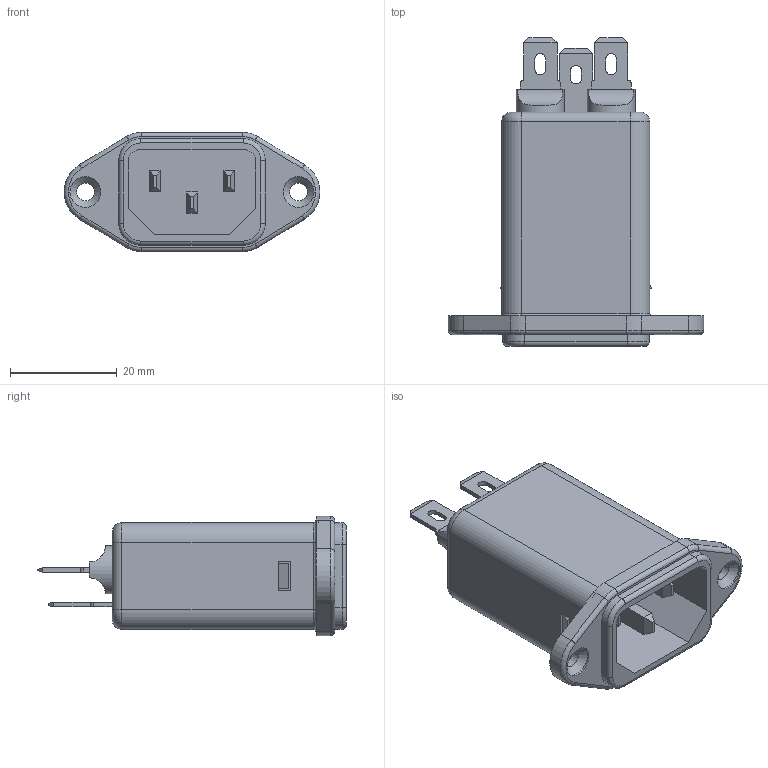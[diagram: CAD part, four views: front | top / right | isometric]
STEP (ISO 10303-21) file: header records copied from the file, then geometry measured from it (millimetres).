
FILE_DESCRIPTION((''),'2;1');
FILE_NAME('C:\SapWorkDir\Inventor\P01\ConvertTempPath\162967_IPT_000.ipt.stp','2016-08-16T15:33:31',(''),(''),'Autodesk Inventor 2013','Autodesk Inventor 2013','');
FILE_SCHEMA(('AUTOMOTIVE_DESIGN { 1 0 10303 214 1 1 1 1 }'));
Length unit declared in the file: millimetre
Products named in the file (1): 162967_CUSTOMER STEP-FILE_FN92XXX-XX-06
Bounding box: 48 x 57.95 x 22.4 mm (x, y, z)
Volume: 8201 mm3; surface area: 18154 mm2
Topology: 1 solids, 1 shells, 641 faces, 1848 edges, 1185 vertices
Faces by surface type: plane 461, cylinder 148, torus 28, cone 2, bspline 2
Full cylindrical faces by diameter (mm): 3.3 x2, 4 x2, 5.8 x2, 9 x2, 9.5 x2
Entity records: 21679 total; most frequent: CARTESIAN_POINT 3866, ORIENTED_EDGE 3666, DIRECTION 3450, EDGE_CURVE 1833, VECTOR 1460, LINE 1460, VERTEX_POINT 1182, AXIS2_PLACEMENT_3D 995
